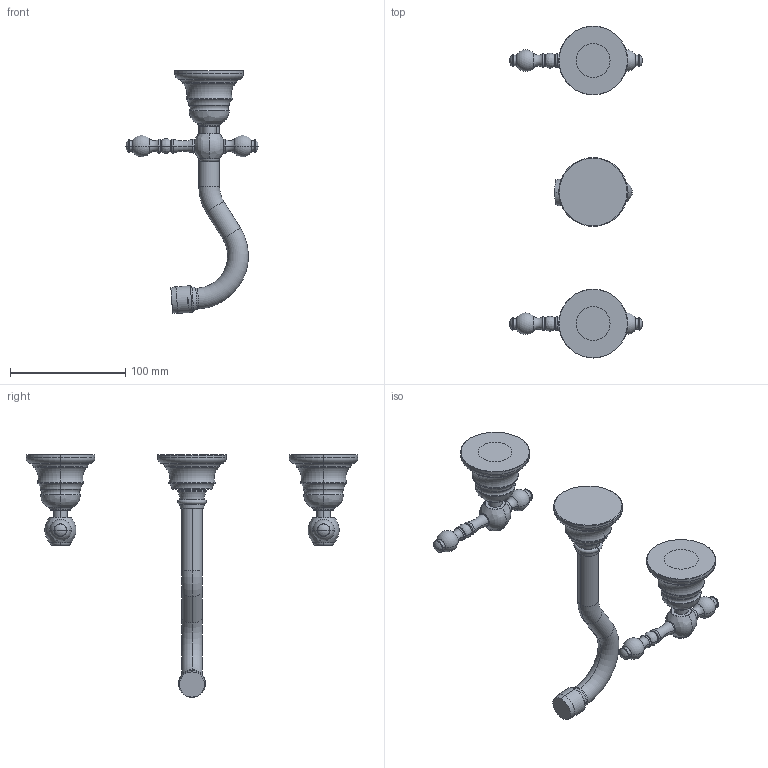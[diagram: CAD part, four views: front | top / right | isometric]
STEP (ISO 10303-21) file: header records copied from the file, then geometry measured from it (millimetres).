
FILE_DESCRIPTION((''),'2;1');
FILE_NAME('F5051L_5_FILE_3D','2013-07-04T',('ivanv'),(''),'PRO/ENGINEER BY PARAMETRIC TECHNOLOGY CORPORATION, 2012130','PRO/ENGINEER BY PARAMETRIC TECHNOLOGY CORPORATION, 2012130','');
FILE_SCHEMA(('CONFIG_CONTROL_DESIGN'));
Length unit declared in the file: millimetre
Products named in the file (1): F5051L_5_FILE_3D
Bounding box: 115.25 x 287.7 x 210.51 mm (x, y, z)
Volume: 208463.9 mm3; surface area: 74107.3 mm2
Topology: 3 solids, 6 shells, 488 faces, 1110 edges, 654 vertices
Faces by surface type: torus 166, plane 128, cylinder 104, cone 60, sphere 16, bspline 14
Entity records: 14898 total; most frequent: CARTESIAN_POINT 3735, DIRECTION 2586, ORIENTED_EDGE 2204, AXIS2_PLACEMENT_3D 1125, EDGE_CURVE 1102, VERTEX_POINT 654, CIRCLE 650, EDGE_LOOP 518
